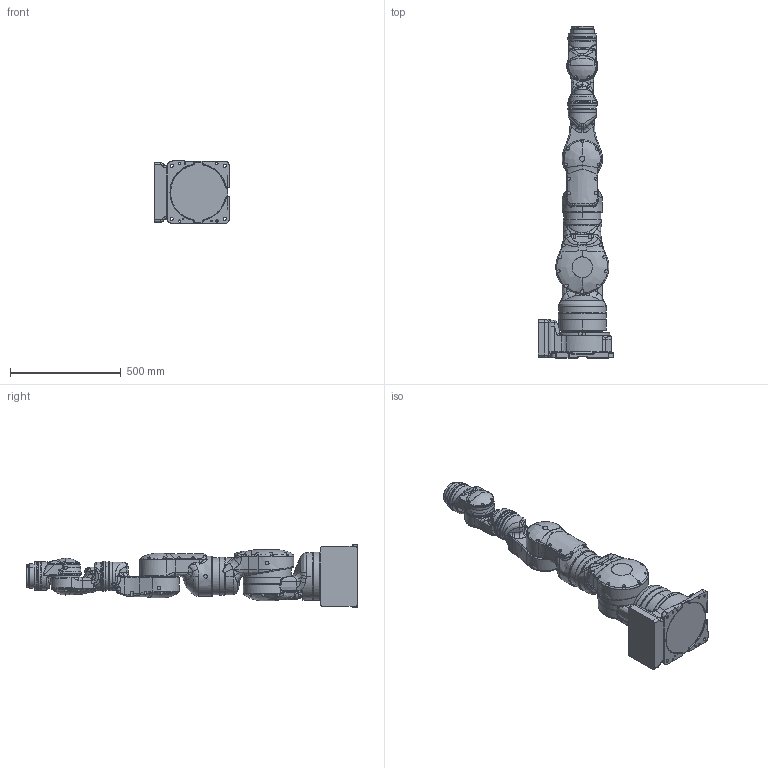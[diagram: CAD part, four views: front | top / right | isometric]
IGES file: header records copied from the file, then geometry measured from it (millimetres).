
Global section: file name: E:\EM-Engineering\Motoman\Auftrag_06.07.10\Ehinger\Bitte_machen\SIA20D-A00\Fertig\SIA20D.igs; native system: NX V4.0; preprocessor: UGS NX IGES V4.0; date: 20100806.091024; units: millimetre
Bounding box: 343.01 x 1500 x 283 mm (x, y, z)
Surface area: 1696778.1 mm2 (no closed solid volume)
Topology: 0 solids, 0 shells, 1841 faces, 15197 edges, 15192 vertices
Faces by surface type: bspline 1841
